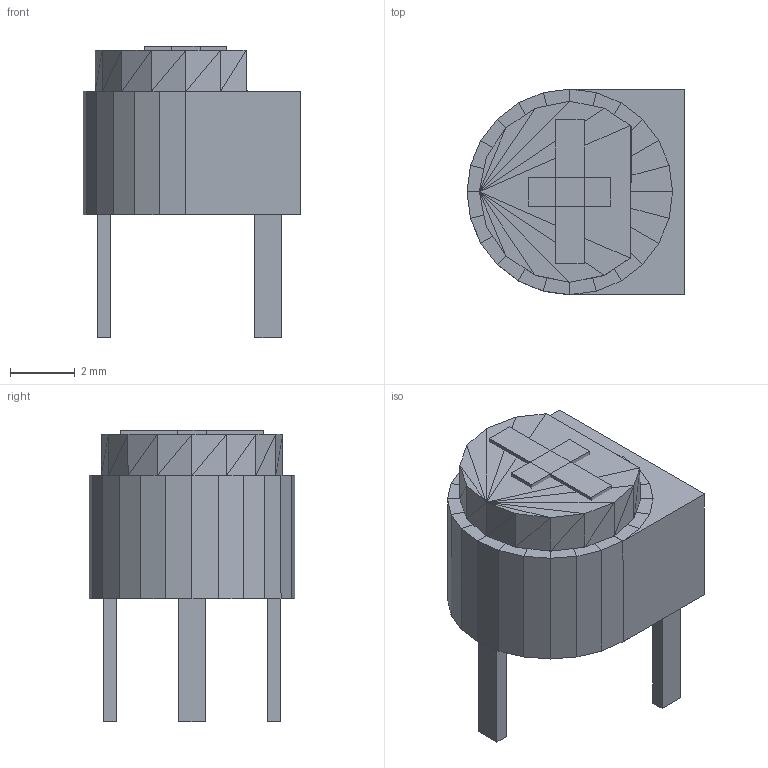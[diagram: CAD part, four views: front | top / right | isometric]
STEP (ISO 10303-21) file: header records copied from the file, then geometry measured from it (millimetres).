
FILE_DESCRIPTION(('HOOPS Exchange Step'),'2;1');
FILE_NAME('***.stp');
FILE_SCHEMA( ('AP242_MANAGED_MODEL_BASED_3D_ENGINEERING_MIM_LF {1 0 10303 442 1 1 4 }') );
Length unit declared in the file: inch
Products named in the file (9): PTRM2_2; PTRM2_3; PTRM2_4; PTRM2_5; PTRM2_6; PTRM2_7; PTRM2_8; PTRM2_9; PTRM2
Assembly tree (8 placements, depth 2):
  PTRM2
    PTRM2_2
    PTRM2_3
    PTRM2_4
    PTRM2_5
    PTRM2_6
    PTRM2_7
    PTRM2_8
    PTRM2_9
Bounding box: 6.73 x 6.35 x 9.02 mm (x, y, z)
Volume: 239.1 mm3; surface area: 379.4 mm2
Topology: 8 solids, 8 shells, 156 faces, 264 edges, 124 vertices
Faces by surface type: plane 156
Entity records: 3729 total; most frequent: DIRECTION 612, CARTESIAN_POINT 562, ORIENTED_EDGE 528, VECTOR 264, LINE 264, EDGE_CURVE 264, AXIS2_PLACEMENT_3D 174, PLANE 156
